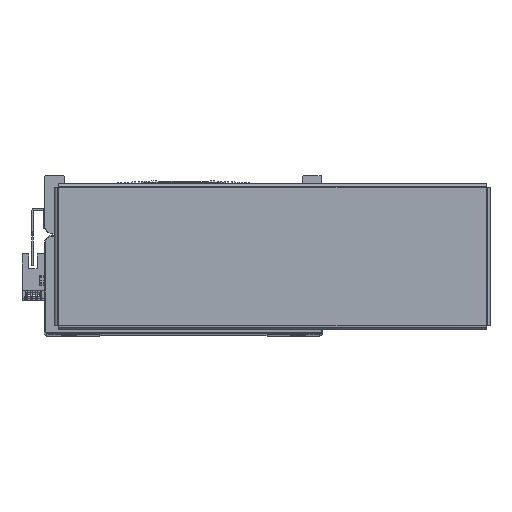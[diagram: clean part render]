
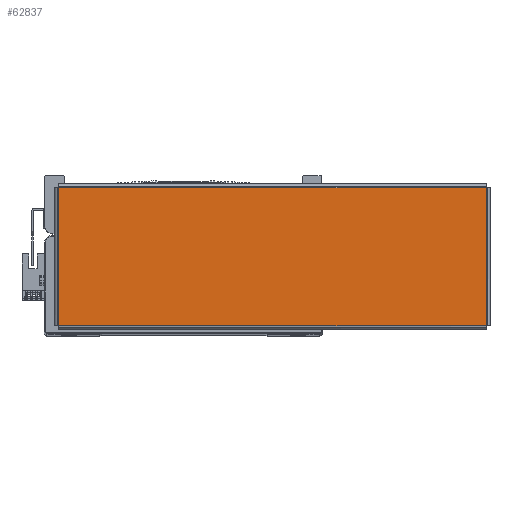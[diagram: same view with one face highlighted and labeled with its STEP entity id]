
A CAD part, top view. The second image highlights one B-rep face of the part: STEP entity #62837.
In plain terms, the highlighted planar face has unit normal (0, 0, 1) as drawn and (0, -1, 0) by its records, which use the part's own axes.
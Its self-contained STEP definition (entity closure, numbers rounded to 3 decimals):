
#5152 = CARTESIAN_POINT ( 'NONE',  ( -130.863, -1.5, 42.263 ) ) ;
#5159 = CARTESIAN_POINT ( 'NONE',  ( 130.863, -1.5, -42.263 ) ) ;
#5199 = CARTESIAN_POINT ( 'NONE',  ( 130.863, -1.5, 42.263 ) ) ;
#5208 = CARTESIAN_POINT ( 'NONE',  ( -130.863, -1.5, -42.263 ) ) ;
#5940 = DIRECTION ( 'NONE',  ( 0., 0., -1. ) ) ;
#5945 = DIRECTION ( 'NONE',  ( 0., 0., 1. ) ) ;
#5951 = CARTESIAN_POINT ( 'NONE',  ( -130.863, -1.5, 42.293 ) ) ;
#5954 = CARTESIAN_POINT ( 'NONE',  ( 130.863, -1.5, -42.293 ) ) ;
#6027 = CARTESIAN_POINT ( 'NONE',  ( 130.893, -1.5, 42.263 ) ) ;
#6044 = DIRECTION ( 'NONE',  ( -1., 0., 0. ) ) ;
#6082 = CARTESIAN_POINT ( 'NONE',  ( -130.893, -1.5, -42.263 ) ) ;
#6098 = DIRECTION ( 'NONE',  ( 1., 0., 0. ) ) ;
#18433 = PLANE ( 'NONE',  #39408 ) ;
#18434 = CARTESIAN_POINT ( 'NONE',  ( 0., -1.5, 0. ) ) ;
#18462 = DIRECTION ( 'NONE',  ( 0., 0., 1. ) ) ;
#18473 = DIRECTION ( 'NONE',  ( 0., 1., 0. ) ) ;
#29989 = FACE_OUTER_BOUND ( 'NONE', #48346, .T. ) ;
#35005 = ORIENTED_EDGE ( 'NONE', *, *, #50129, .T. ) ;
#35017 = ORIENTED_EDGE ( 'NONE', *, *, #50168, .T. ) ;
#35044 = ORIENTED_EDGE ( 'NONE', *, *, #50162, .T. ) ;
#35125 = ORIENTED_EDGE ( 'NONE', *, *, #50125, .T. ) ;
#39408 = AXIS2_PLACEMENT_3D ( 'NONE', #18434, #18473, #18462 ) ;
#44737 = VERTEX_POINT ( 'NONE', #5152 ) ;
#44740 = VERTEX_POINT ( 'NONE', #5159 ) ;
#44751 = VERTEX_POINT ( 'NONE', #5208 ) ;
#44752 = VERTEX_POINT ( 'NONE', #5199 ) ;
#48346 = EDGE_LOOP ( 'NONE', ( #35125, #35044, #35005, #35017 ) ) ;
#50125 = EDGE_CURVE ( 'NONE', #44740, #44752, #52053, .T. ) ;
#50129 = EDGE_CURVE ( 'NONE', #44737, #44751, #52085, .T. ) ;
#50162 = EDGE_CURVE ( 'NONE', #44752, #44737, #52229, .T. ) ;
#50168 = EDGE_CURVE ( 'NONE', #44751, #44740, #52205, .T. ) ;
#52053 = LINE ( 'NONE', #5954, #52163 ) ;
#52074 = VECTOR ( 'NONE', #5940, 1000. ) ;
#52085 = LINE ( 'NONE', #5951, #52074 ) ;
#52163 = VECTOR ( 'NONE', #5945, 1000. ) ;
#52169 = VECTOR ( 'NONE', #6098, 1000. ) ;
#52205 = LINE ( 'NONE', #6082, #52169 ) ;
#52229 = LINE ( 'NONE', #6027, #52235 ) ;
#52235 = VECTOR ( 'NONE', #6044, 1000. ) ;
#62837 = ADVANCED_FACE ( 'NONE', ( #29989 ), #18433, .F. ) ;
